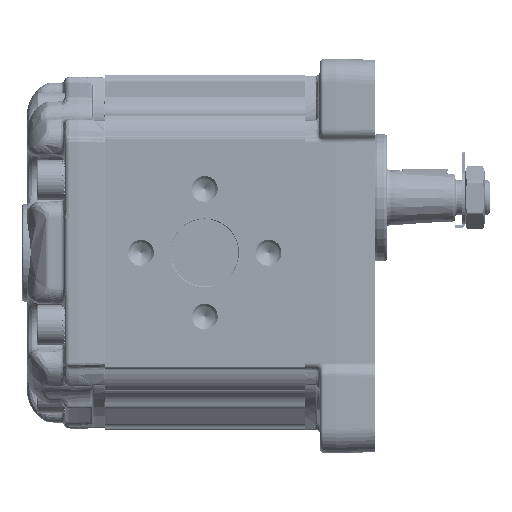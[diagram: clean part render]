
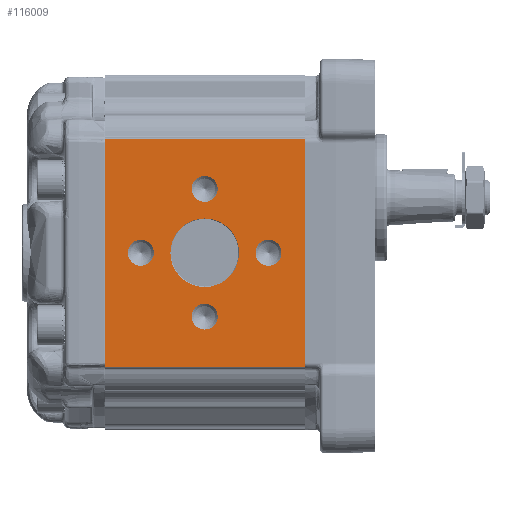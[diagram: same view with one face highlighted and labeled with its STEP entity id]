
A CAD part, left-side view. The second image highlights one B-rep face of the part: STEP entity #116009.
In plain terms, the highlighted planar face has unit normal (-1, 0, 0).
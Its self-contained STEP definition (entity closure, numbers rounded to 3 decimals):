
#6809=PLANE('',#122641);
#9619=LINE('',#178682,#14419);
#9630=LINE('',#178767,#14430);
#9668=LINE('',#178875,#14468);
#9669=LINE('',#178876,#14469);
#14419=VECTOR('',#136564,1000.);
#14430=VECTOR('',#136639,1000.);
#14468=VECTOR('',#136765,1000.);
#14469=VECTOR('',#136766,1000.);
#29449=ORIENTED_EDGE('',*,*,#50242,.T.);
#29450=ORIENTED_EDGE('',*,*,#50243,.T.);
#29451=ORIENTED_EDGE('',*,*,#50244,.T.);
#29452=ORIENTED_EDGE('',*,*,#50245,.T.);
#29453=ORIENTED_EDGE('',*,*,#50246,.T.);
#29454=ORIENTED_EDGE('',*,*,#50146,.F.);
#29455=ORIENTED_EDGE('',*,*,#50247,.T.);
#29456=ORIENTED_EDGE('',*,*,#50188,.F.);
#29457=ORIENTED_EDGE('',*,*,#50248,.T.);
#50146=EDGE_CURVE('',#61408,#61409,#9619,.T.);
#50188=EDGE_CURVE('',#61450,#61451,#9630,.T.);
#50242=EDGE_CURVE('',#61472,#61472,#68218,.F.);
#50243=EDGE_CURVE('',#61473,#61473,#68219,.F.);
#50244=EDGE_CURVE('',#61474,#61474,#68220,.F.);
#50245=EDGE_CURVE('',#61475,#61475,#68221,.F.);
#50246=EDGE_CURVE('',#61476,#61476,#68222,.F.);
#50247=EDGE_CURVE('',#61408,#61451,#9668,.F.);
#50248=EDGE_CURVE('',#61450,#61409,#9669,.F.);
#61408=VERTEX_POINT('',#178681);
#61409=VERTEX_POINT('',#178683);
#61450=VERTEX_POINT('',#178766);
#61451=VERTEX_POINT('',#178768);
#61472=VERTEX_POINT('',#178866);
#61473=VERTEX_POINT('',#178868);
#61474=VERTEX_POINT('',#178870);
#61475=VERTEX_POINT('',#178872);
#61476=VERTEX_POINT('',#178874);
#68218=CIRCLE('',#122642,5.188);
#68219=CIRCLE('',#122643,5.188);
#68220=CIRCLE('',#122644,5.188);
#68221=CIRCLE('',#122645,5.188);
#68222=CIRCLE('',#122646,13.7);
#72446=EDGE_LOOP('',(#29449));
#72447=EDGE_LOOP('',(#29450));
#72448=EDGE_LOOP('',(#29451));
#72449=EDGE_LOOP('',(#29452));
#72450=EDGE_LOOP('',(#29453));
#72451=EDGE_LOOP('',(#29454,#29455,#29456,#29457));
#77469=FACE_BOUND('',#72446,.T.);
#77470=FACE_BOUND('',#72447,.T.);
#77471=FACE_BOUND('',#72448,.T.);
#77472=FACE_BOUND('',#72449,.T.);
#77473=FACE_BOUND('',#72450,.T.);
#77474=FACE_BOUND('',#72451,.T.);
#116009=ADVANCED_FACE('',(#77469,#77470,#77471,#77472,#77473,#77474),#6809,
 .T.);
#122641=AXIS2_PLACEMENT_3D('',#178864,#136753,#136754);
#122642=AXIS2_PLACEMENT_3D('',#178865,#136755,#136756);
#122643=AXIS2_PLACEMENT_3D('',#178867,#136757,#136758);
#122644=AXIS2_PLACEMENT_3D('',#178869,#136759,#136760);
#122645=AXIS2_PLACEMENT_3D('',#178871,#136761,#136762);
#122646=AXIS2_PLACEMENT_3D('',#178873,#136763,#136764);
#136564=DIRECTION('',(0.,0.,1.));
#136639=DIRECTION('',(0.,0.,-1.));
#136753=DIRECTION('',(-1.,0.,0.));
#136754=DIRECTION('',(0.,0.,-1.));
#136755=DIRECTION('',(-1.,0.,0.));
#136756=DIRECTION('',(0.,0.,-1.));
#136757=DIRECTION('',(-1.,0.,0.));
#136758=DIRECTION('',(0.,0.,-1.));
#136759=DIRECTION('',(-1.,0.,0.));
#136760=DIRECTION('',(0.,0.,-1.));
#136761=DIRECTION('',(-1.,0.,0.));
#136762=DIRECTION('',(0.,0.,-1.));
#136763=DIRECTION('',(-1.,0.,0.));
#136764=DIRECTION('',(0.,0.,-1.));
#136765=DIRECTION('',(0.,1.,0.));
#136766=DIRECTION('',(0.,-1.,0.));
#178681=CARTESIAN_POINT('',(-57.5,80.,-45.5));
#178682=CARTESIAN_POINT('',(-57.5,80.,-84.819));
#178683=CARTESIAN_POINT('',(-57.5,80.,45.5));
#178766=CARTESIAN_POINT('',(-57.5,0.,45.5));
#178767=CARTESIAN_POINT('',(-57.5,0.,-44.978));
#178768=CARTESIAN_POINT('',(-57.5,0.,-45.5));
#178864=CARTESIAN_POINT('',(-57.5,-146.137,-84.819));
#178865=CARTESIAN_POINT('',(-57.5,40.,25.5));
#178866=CARTESIAN_POINT('',(-57.5,40.,20.312));
#178867=CARTESIAN_POINT('',(-57.5,65.5,0.));
#178868=CARTESIAN_POINT('',(-57.5,65.5,-5.188));
#178869=CARTESIAN_POINT('',(-57.5,40.,-25.5));
#178870=CARTESIAN_POINT('',(-57.5,40.,-30.688));
#178871=CARTESIAN_POINT('',(-57.5,14.5,0.));
#178872=CARTESIAN_POINT('',(-57.5,14.5,-5.188));
#178873=CARTESIAN_POINT('',(-57.5,40.,0.));
#178874=CARTESIAN_POINT('',(-57.5,40.,-13.7));
#178875=CARTESIAN_POINT('',(-57.5,-146.137,-45.5));
#178876=CARTESIAN_POINT('',(-57.5,-146.137,45.5));
